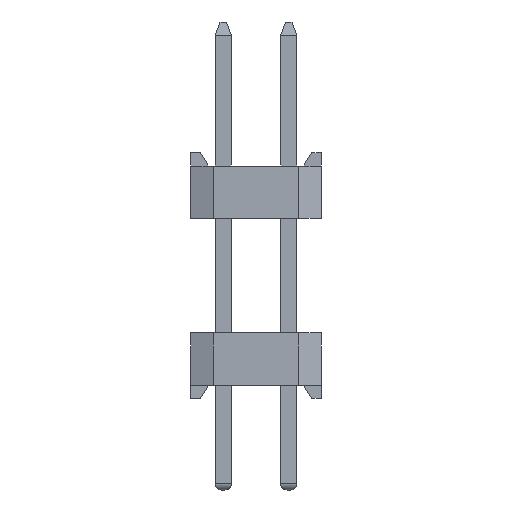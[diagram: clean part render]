
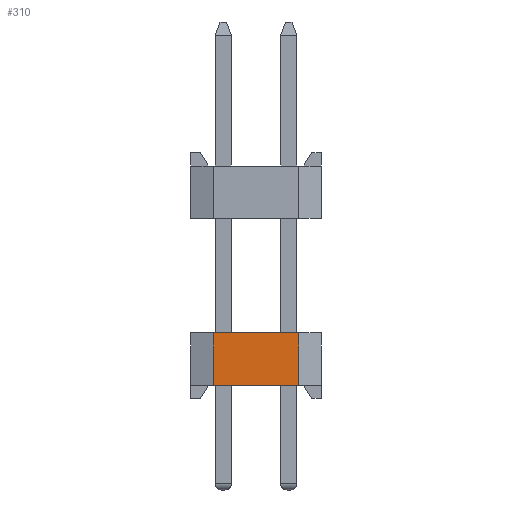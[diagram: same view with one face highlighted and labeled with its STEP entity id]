
A CAD part, left-side view. The second image highlights one B-rep face of the part: STEP entity #310.
In plain terms, the highlighted planar face has unit normal (-1, 0, 0).
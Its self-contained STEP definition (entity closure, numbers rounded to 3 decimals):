
#310=ADVANCED_FACE('',(#1822),#1110,.T.);
#1110=PLANE('',#15063);
#1822=FACE_OUTER_BOUND('',#2644,.T.);
#2644=EDGE_LOOP('',(#3742,#3743,#3744,#3745));
#3742=ORIENTED_EDGE('',*,*,#9219,.T.);
#3743=ORIENTED_EDGE('',*,*,#9220,.F.);
#3744=ORIENTED_EDGE('',*,*,#9221,.F.);
#3745=ORIENTED_EDGE('',*,*,#9110,.F.);
#7782=VERTEX_POINT('',#19969);
#7783=VERTEX_POINT('',#19970);
#7880=VERTEX_POINT('',#20178);
#7881=VERTEX_POINT('',#20180);
#9110=EDGE_CURVE('',#7782,#7783,#11190,.T.);
#9219=EDGE_CURVE('',#7782,#7880,#11299,.T.);
#9220=EDGE_CURVE('',#7881,#7880,#11300,.T.);
#9221=EDGE_CURVE('',#7783,#7881,#11301,.T.);
#11190=LINE('',#19968,#13182);
#11299=LINE('',#20177,#13291);
#11300=LINE('',#20179,#13292);
#11301=LINE('',#20181,#13293);
#13182=VECTOR('',#16085,1.);
#13291=VECTOR('',#16198,1.);
#13292=VECTOR('',#16199,1.);
#13293=VECTOR('',#16200,1.);
#15063=AXIS2_PLACEMENT_3D('',#20182,#16201,#16202);
#16085=DIRECTION('',(0.,-1.,0.));
#16198=DIRECTION('',(0.,0.,-1.));
#16199=DIRECTION('',(0.,1.,0.));
#16200=DIRECTION('',(0.,0.,-1.));
#16201=DIRECTION('',(-1.,0.,0.));
#16202=DIRECTION('',(0.,0.,1.));
#19968=CARTESIAN_POINT('',(0.,3.,1.6));
#19969=CARTESIAN_POINT('',(0.,3.3,1.6));
#19970=CARTESIAN_POINT('',(0.,0.7,1.6));
#20177=CARTESIAN_POINT('',(0.,3.3,0.));
#20178=CARTESIAN_POINT('',(0.,3.3,0.));
#20179=CARTESIAN_POINT('',(0.,3.,0.));
#20180=CARTESIAN_POINT('',(0.,0.7,0.));
#20181=CARTESIAN_POINT('',(0.,0.7,0.));
#20182=CARTESIAN_POINT('',(0.,3.,0.));
